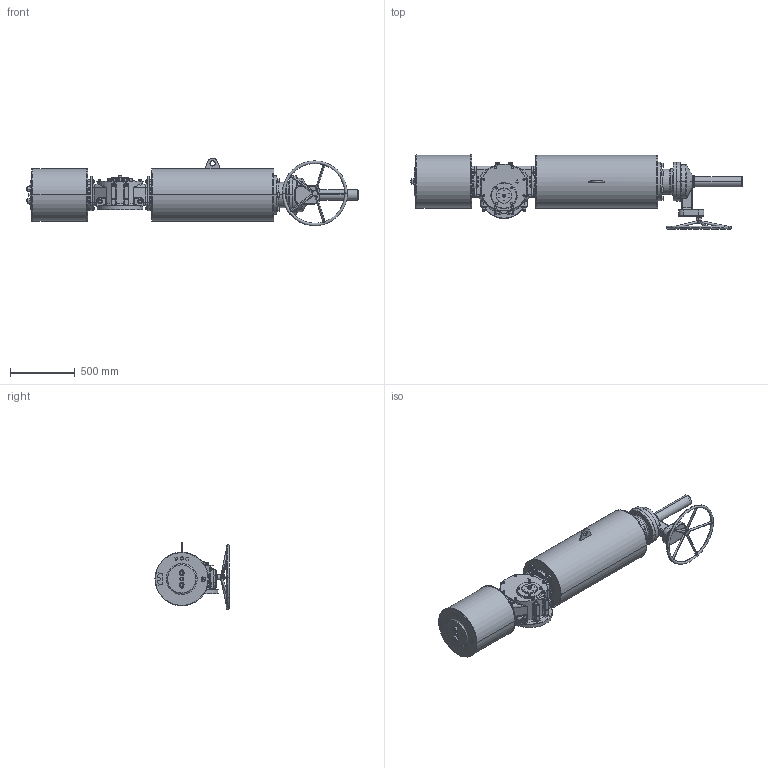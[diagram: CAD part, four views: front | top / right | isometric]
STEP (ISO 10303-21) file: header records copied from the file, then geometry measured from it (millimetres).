
FILE_DESCRIPTION (( 'STEP AP203' ), '1' );
FILE_NAME ('VTS4-400-SR-MG-FC.STEP', '2023-01-01T09:21:38', ( '' ), ( '' ), 'SwSTEP 2.0', 'SolidWorks 2020', '' );
FILE_SCHEMA (( 'CONFIG_CONTROL_DESIGN' ));
Length unit declared in the file: millimetre
Products named in the file (1): VTS4-400-SR-MG-FC
Bounding box: 2559.5 x 571.5 x 520.7 mm (x, y, z)
Volume: 221536329.6 mm3; surface area: 4564219 mm2
Topology: 18 solids, 21 shells, 2352 faces, 5928 edges, 3709 vertices
Faces by surface type: plane 885, cylinder 759, cone 489, bspline 150, torus 69
Entity records: 90075 total; most frequent: CARTESIAN_POINT 34681, ORIENTED_EDGE 11684, DIRECTION 11550, EDGE_CURVE 5842, AXIS2_PLACEMENT_3D 4601, VERTEX_POINT 3709, EDGE_LOOP 2635, CIRCLE 2398
